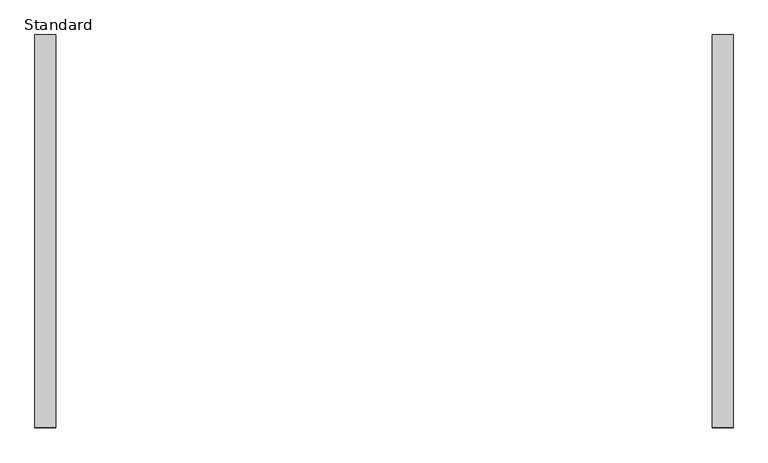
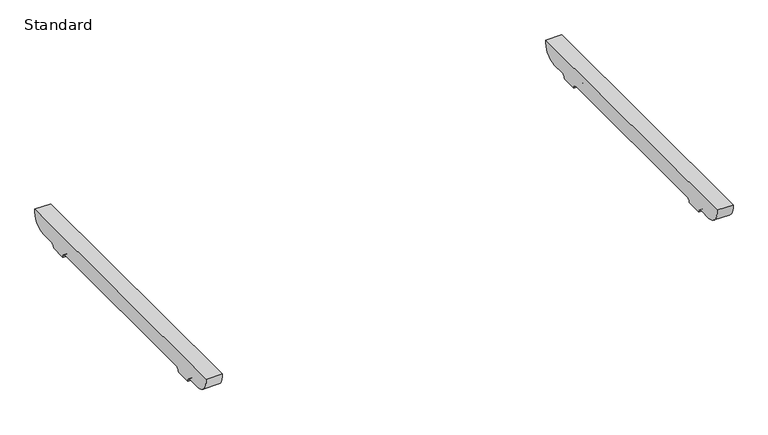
"""IFC4 building model written with IfcOpenShell, lengths in millimetres: furniture geometry, BDG_BossDesign_Tbls_AgentTables4Legs_Nested : Standard."""

from ifc_helpers import new_model, si_unit, point, frame, frame_2d, origin, place, context, project, spatial, polyline, circle_curve, trimmed, segment, composite_curve, outline, extrude, source, transform, mapped, element, save


def standard_caf0e5b7(model_context):
    return source(origin(), model_context, "Body", "SweptSolid", [
        extrude(outline(composite_curve([segment(polyline([(380.5450184, 672.0), (342.7000122, 672.0)]), True, "CONTINUOUS"), segment(trimmed(circle_curve(frame_2d((342.7000122, 660.0)), 12.0), [point((342.7000122, 672.0))], [point((330.7000122, 660.0))], True, "CARTESIAN"), True, "CONTINUOUS"), segment(polyline([(330.7000122, 660.0), (285.7000122, 660.0)]), True, "CONTINUOUS"), segment(trimmed(circle_curve(frame_2d((273.7000122, 660.0)), 12.0), [point((285.7000122, 660.0))], [point((273.7000122, 672.0))], True, "CARTESIAN"), True, "CONTINUOUS"), segment(polyline([(273.7000122, 672.0), (-273.7000122, 672.0)]), True, "CONTINUOUS"), segment(trimmed(circle_curve(frame_2d((-273.7000122, 660.0)), 12.0), [point((-273.7000122, 672.0))], [point((-285.7000122, 660.0))], True, "CARTESIAN"), True, "CONTINUOUS"), segment(polyline([(-285.7000122, 660.0), (-330.7000122, 660.0)]), True, "CONTINUOUS"), segment(trimmed(circle_curve(frame_2d((-342.7000122, 660.0)), 12.0), [point((-330.7000122, 660.0))], [point((-342.7000122, 672.0))], True, "CARTESIAN"), True, "CONTINUOUS"), segment(polyline([(-342.7000122, 672.0), (-380.5450184, 672.0)]), True, "CONTINUOUS"), segment(trimmed(circle_curve(frame_2d((-378.2220439, 716.5514119)), 44.6119324), [point((-380.5450184, 672.0))], [point((-422.5, 722.0))], False, "CARTESIAN"), True, "CONTINUOUS"), segment(polyline([(-422.5, 722.0), (422.5, 722.0)]), True, "CONTINUOUS"), segment(trimmed(circle_curve(frame_2d((378.2220439, 716.5514119)), 44.6119324), [point((422.5, 722.0))], [point((380.5450184, 672.0))], False, "CARTESIAN"), True, "CONTINUOUS")], self_intersect=False)), frame((705.0, 0.0, 0.0), z_axis=(1.0, 0.0, 0.0), x_axis=(0.0, 1.0, 0.0)), (0.0, 0.0, 1.0), 45.0),
        extrude(outline(composite_curve([segment(polyline([(380.5450184, 672.0), (342.7000122, 672.0)]), True, "CONTINUOUS"), segment(trimmed(circle_curve(frame_2d((342.7000122, 660.0)), 12.0), [point((342.7000122, 672.0))], [point((330.7000122, 660.0))], True, "CARTESIAN"), True, "CONTINUOUS"), segment(polyline([(330.7000122, 660.0), (285.7000122, 660.0)]), True, "CONTINUOUS"), segment(trimmed(circle_curve(frame_2d((273.7000122, 660.0)), 12.0), [point((285.7000122, 660.0))], [point((273.7000122, 672.0))], True, "CARTESIAN"), True, "CONTINUOUS"), segment(polyline([(273.7000122, 672.0), (-273.7000122, 672.0)]), True, "CONTINUOUS"), segment(trimmed(circle_curve(frame_2d((-273.7000122, 660.0)), 12.0), [point((-273.7000122, 672.0))], [point((-285.7000122, 660.0))], True, "CARTESIAN"), True, "CONTINUOUS"), segment(polyline([(-285.7000122, 660.0), (-330.7000122, 660.0)]), True, "CONTINUOUS"), segment(trimmed(circle_curve(frame_2d((-342.7000122, 660.0)), 12.0), [point((-330.7000122, 660.0))], [point((-342.7000122, 672.0))], True, "CARTESIAN"), True, "CONTINUOUS"), segment(polyline([(-342.7000122, 672.0), (-380.5450184, 672.0)]), True, "CONTINUOUS"), segment(trimmed(circle_curve(frame_2d((-378.2220439, 716.5514119)), 44.6119324), [point((-380.5450184, 672.0))], [point((-422.5, 722.0))], False, "CARTESIAN"), True, "CONTINUOUS"), segment(polyline([(-422.5, 722.0), (422.5, 722.0)]), True, "CONTINUOUS"), segment(trimmed(circle_curve(frame_2d((378.2220439, 716.5514119)), 44.6119324), [point((422.5, 722.0))], [point((380.5450184, 672.0))], False, "CARTESIAN"), True, "CONTINUOUS")], self_intersect=False)), frame((-750.0, 0.0, 0.0), z_axis=(1.0, 0.0, 0.0), x_axis=(0.0, 1.0, 0.0)), (0.0, 0.0, 1.0), 45.0),
    ])


if __name__ == "__main__":
    model = new_model("IFC4")
    model_context = context("Model", 3, world=origin())
    ifc_project = project(units=[si_unit("LENGTHUNIT", "METRE", prefix="MILLI")], contexts=[model_context])
    site = spatial("IfcSite", under=ifc_project)
    building = spatial("IfcBuilding", under=site)
    placement = place(None, origin())
    standard_shape = standard_caf0e5b7(model_context)
    element("IfcFurniture", 1, ObjectType="BDG_BossDesign_Tbls_AgentTables4Legs_Nested : Standard", at=placement, inside=building, context=model_context, shape_type="MappedRepresentation", body=[
        mapped(standard_shape, transform((0.0, 0.0, 0.0), x_axis=(1.0, 0.0, 0.0), y_axis=(0.0, 1.0, 0.0), z_axis=(0.0, 0.0, 1.0))),
    ])
    save(model, "model.ifc")
